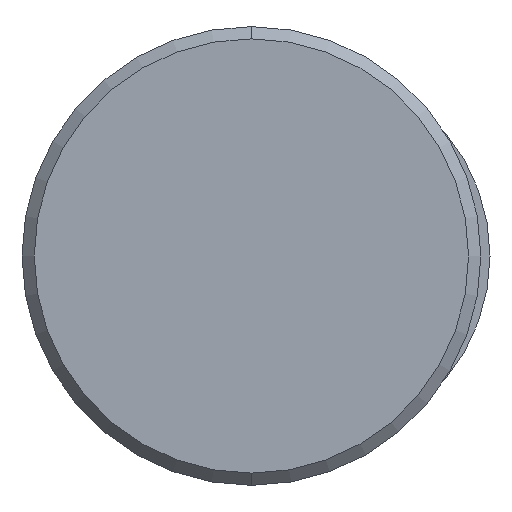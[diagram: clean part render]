
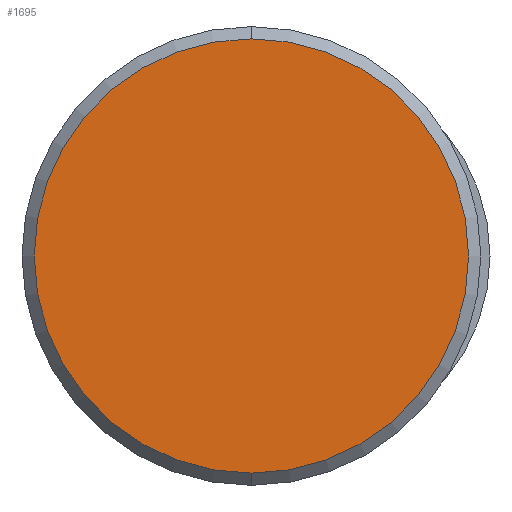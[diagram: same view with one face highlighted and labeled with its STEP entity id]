
A CAD part, left-side view. The second image highlights one B-rep face of the part: STEP entity #1695.
In plain terms, the highlighted planar face has unit normal (-1, 0, 0).
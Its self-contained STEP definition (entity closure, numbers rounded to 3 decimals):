
#1627=CARTESIAN_POINT('Vertex',(0.,0.,-35.5)) ;
#1630=CARTESIAN_POINT('Axis2P3D Location',(0.,0.,0.)) ;
#1634=CARTESIAN_POINT('Vertex',(0.,35.5,0.)) ;
#1637=CARTESIAN_POINT('Axis2P3D Location',(0.,0.,0.)) ;
#1641=CARTESIAN_POINT('Vertex',(0.,0.,35.5)) ;
#1663=CARTESIAN_POINT('Axis2P3D Location',(0.,0.,0.)) ;
#1667=CARTESIAN_POINT('Vertex',(0.,-35.5,0.)) ;
#1670=CARTESIAN_POINT('Axis2P3D Location',(0.,0.,0.)) ;
#1684=CARTESIAN_POINT('Axis2P3D Location',(0.,0.,0.)) ;
#1631=DIRECTION('Axis2P3D Direction',(1.,0.,-0.)) ;
#1638=DIRECTION('Axis2P3D Direction',(1.,0.,-0.)) ;
#1664=DIRECTION('Axis2P3D Direction',(1.,0.,-0.)) ;
#1671=DIRECTION('Axis2P3D Direction',(1.,0.,-0.)) ;
#1685=DIRECTION('Axis2P3D Direction',(1.,0.,-0.)) ;
#1686=DIRECTION('Axis2P3D XDirection',(-0.,0.,-1.)) ;
#1632=AXIS2_PLACEMENT_3D('Circle Axis2P3D',#1630,#1631,$) ;
#1639=AXIS2_PLACEMENT_3D('Circle Axis2P3D',#1637,#1638,$) ;
#1665=AXIS2_PLACEMENT_3D('Circle Axis2P3D',#1663,#1664,$) ;
#1672=AXIS2_PLACEMENT_3D('Circle Axis2P3D',#1670,#1671,$) ;
#1687=AXIS2_PLACEMENT_3D('Plane Axis2P3D',#1684,#1685,#1686) ;
#1690=ORIENTED_EDGE('',*,*,#1636,.F.) ;
#1691=ORIENTED_EDGE('',*,*,#1674,.F.) ;
#1692=ORIENTED_EDGE('',*,*,#1669,.F.) ;
#1693=ORIENTED_EDGE('',*,*,#1643,.F.) ;
#1695=ADVANCED_FACE('395A-063-347',(#1694),#1688,.F.) ;
#1633=CIRCLE('generated circle',#1632,35.5) ;
#1640=CIRCLE('generated circle',#1639,35.5) ;
#1666=CIRCLE('generated circle',#1665,35.5) ;
#1673=CIRCLE('generated circle',#1672,35.5) ;
#1636=EDGE_CURVE('',#1628,#1635,#1633,.T.) ;
#1643=EDGE_CURVE('',#1635,#1642,#1640,.T.) ;
#1669=EDGE_CURVE('',#1642,#1668,#1666,.T.) ;
#1674=EDGE_CURVE('',#1668,#1628,#1673,.T.) ;
#1689=EDGE_LOOP('',(#1690,#1691,#1692,#1693)) ;
#1694=FACE_OUTER_BOUND('',#1689,.T.) ;
#1688=PLANE('Plane',#1687) ;
#1628=VERTEX_POINT('',#1627) ;
#1635=VERTEX_POINT('',#1634) ;
#1642=VERTEX_POINT('',#1641) ;
#1668=VERTEX_POINT('',#1667) ;
